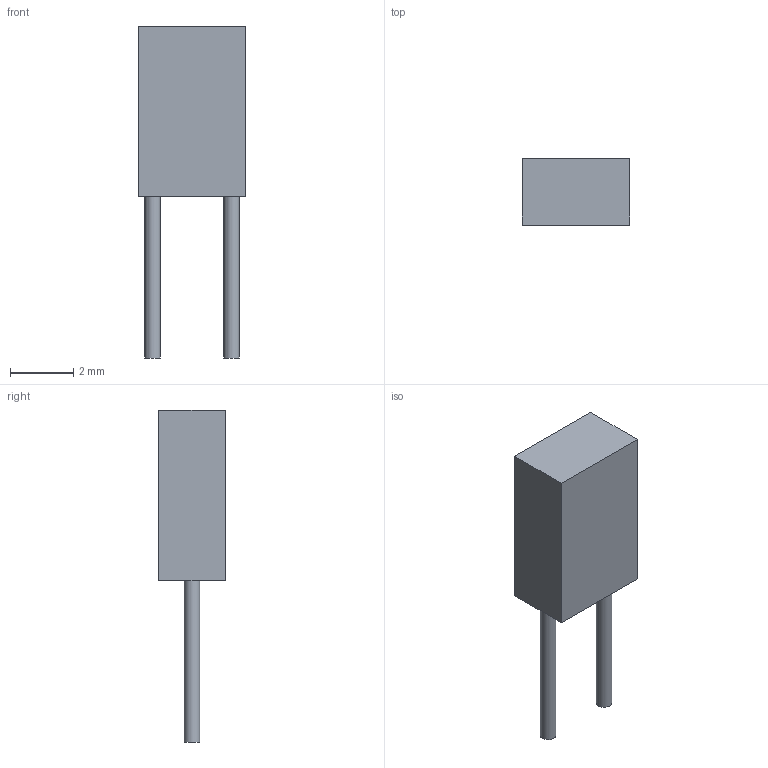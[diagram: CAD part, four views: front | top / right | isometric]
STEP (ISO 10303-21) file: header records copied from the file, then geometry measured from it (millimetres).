
FILE_DESCRIPTION(('FreeCAD Model'),'2;1');
FILE_NAME('/var/www/3D/0T/1353878.1.2.stp','2022-06-06T15:23:33',( 'Author'),(''),'Open CASCADE STEP processor 6.9','FreeCAD','Unknown' );
FILE_SCHEMA(('AUTOMOTIVE_DESIGN { 1 0 10303 214 1 1 1 1 }'));
Length unit declared in the file: millimetre
Products named in the file (3): ASSEMBLY; Body; Leads
Assembly tree (2 placements, depth 2):
  ASSEMBLY
    Body
    Leads
Bounding box: 3.4 x 2.1 x 10.5 mm (x, y, z)
Volume: 40.6 mm3; surface area: 90.5 mm2
Topology: 3 solids, 3 shells, 12 faces, 18 edges, 12 vertices
Faces by surface type: plane 10, cylinder 2
Full cylindrical faces by diameter (mm): 0.5 x2
Entity records: 573 total; most frequent: DIRECTION 88, CARTESIAN_POINT 81, LINE 46, VECTOR 46, ORIENTED_EDGE 36, PCURVE 36, DEFINITIONAL_REPRESENTATION 36, AXIS2_PLACEMENT_3D 19
